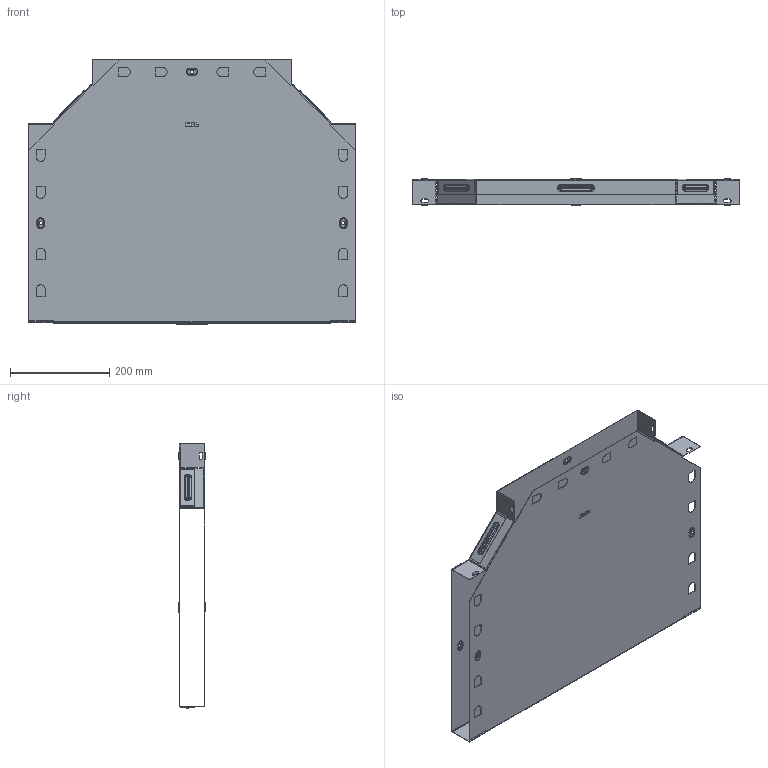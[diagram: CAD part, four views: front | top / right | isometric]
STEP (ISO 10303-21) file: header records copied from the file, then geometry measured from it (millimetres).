
FILE_DESCRIPTION (( 'STEP AP214' ), '1' );
FILE_NAME ('t5040008_捘.STEP', '2019-06-10T08:12:57', ( '砐錪賧瘔蠈錪 Windows' ), ( '' ), 'SwSTEP 2.0', 'SolidWorks 2018', '' );
FILE_SCHEMA (( 'AUTOMOTIVE_DESIGN' ));
Length unit declared in the file: millimetre
Products named in the file (1): t5040008_捘
Bounding box: 656.4 x 53.8 x 531 mm (x, y, z)
Volume: 562331.5 mm3; surface area: 1411646 mm2
Topology: 2 solids, 2 shells, 678 faces, 1878 edges, 1216 vertices
Faces by surface type: plane 370, cylinder 194, torus 96, bspline 18
Entity records: 22735 total; most frequent: CARTESIAN_POINT 4853, ORIENTED_EDGE 3756, DIRECTION 3696, EDGE_CURVE 1878, VECTOR 1310, LINE 1310, VERTEX_POINT 1216, AXIS2_PLACEMENT_3D 1193
